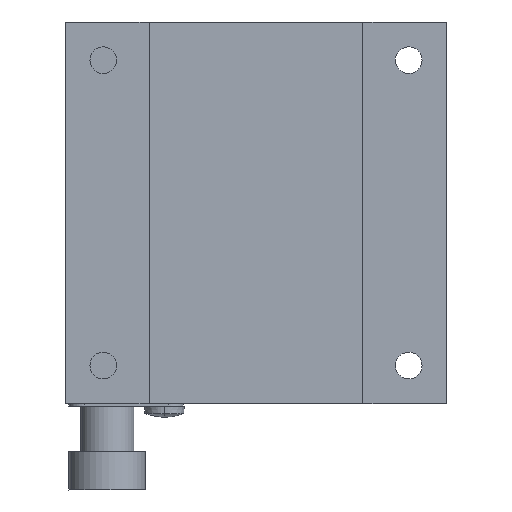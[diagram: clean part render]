
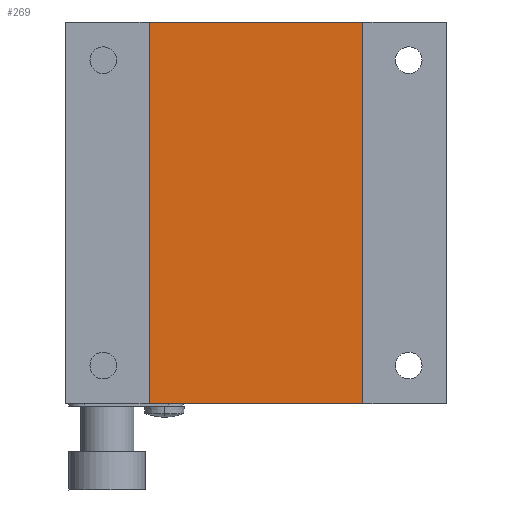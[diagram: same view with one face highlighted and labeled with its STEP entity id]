
A CAD part, front view. The second image highlights one B-rep face of the part: STEP entity #269.
In plain terms, the highlighted planar face has unit normal (0, -1, 0).
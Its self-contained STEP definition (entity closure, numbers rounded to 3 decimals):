
#235 = EDGE_CURVE ( 'NONE', #9412, #9556, #3648, .T. ) ;
#236 = ORIENTED_EDGE ( 'NONE', *, *, #9411, .F. ) ;
#237 = ORIENTED_EDGE ( 'NONE', *, *, #392, .T. ) ;
#269 = ADVANCED_FACE ( 'NONE', ( #3691 ), #3827, .F. ) ;
#270 = EDGE_LOOP ( 'NONE', ( #271, #272, #236, #237 ) ) ;
#271 = ORIENTED_EDGE ( 'NONE', *, *, #9558, .T. ) ;
#272 = ORIENTED_EDGE ( 'NONE', *, *, #235, .F. ) ;
#392 = EDGE_CURVE ( 'NONE', #9409, #9559, #3873, .T. ) ;
#3645 = DIRECTION ( 'NONE',  ( 0., 0., -1. ) ) ;
#3646 = VECTOR ( 'NONE', #3645, 1000. ) ;
#3647 = CARTESIAN_POINT ( 'NONE',  ( 14., 0.5, 25. ) ) ;
#3648 = LINE ( 'NONE', #3647, #3646 ) ;
#3691 = FACE_OUTER_BOUND ( 'NONE', #270, .T. ) ;
#3746 = DIRECTION ( 'NONE',  ( 0., 0., 1. ) ) ;
#3747 = DIRECTION ( 'NONE',  ( 0., 1., 0. ) ) ;
#3748 = CARTESIAN_POINT ( 'NONE',  ( -14., 0.5, 25. ) ) ;
#3789 = AXIS2_PLACEMENT_3D ( 'NONE', #3748, #3747, #3746 ) ;
#3827 = PLANE ( 'NONE',  #3789 ) ;
#3870 = DIRECTION ( 'NONE',  ( 0., 0., -1. ) ) ;
#3871 = VECTOR ( 'NONE', #3870, 1000. ) ;
#3872 = CARTESIAN_POINT ( 'NONE',  ( -14., 0.5, 25. ) ) ;
#3873 = LINE ( 'NONE', #3872, #3871 ) ;
#8196 = DIRECTION ( 'NONE',  ( 1., 0., 0. ) ) ;
#8197 = VECTOR ( 'NONE', #8196, 1000. ) ;
#8198 = CARTESIAN_POINT ( 'NONE',  ( -14., 0.5, 25. ) ) ;
#8247 = LINE ( 'NONE', #8198, #8197 ) ;
#8251 = CARTESIAN_POINT ( 'NONE',  ( -14., 0.5, 25. ) ) ;
#8256 = CARTESIAN_POINT ( 'NONE',  ( 14., 0.5, 25. ) ) ;
#8328 = CARTESIAN_POINT ( 'NONE',  ( -14., 0.5, -25. ) ) ;
#8329 = LINE ( 'NONE', #8328, #8345 ) ;
#8330 = CARTESIAN_POINT ( 'NONE',  ( 14., 0.5, -25. ) ) ;
#8343 = CARTESIAN_POINT ( 'NONE',  ( -14., 0.5, -25. ) ) ;
#8344 = DIRECTION ( 'NONE',  ( 1., 0., 0. ) ) ;
#8345 = VECTOR ( 'NONE', #8344, 1000. ) ;
#9409 = VERTEX_POINT ( 'NONE', #8251 ) ;
#9411 = EDGE_CURVE ( 'NONE', #9409, #9412, #8247, .T. ) ;
#9412 = VERTEX_POINT ( 'NONE', #8256 ) ;
#9556 = VERTEX_POINT ( 'NONE', #8330 ) ;
#9558 = EDGE_CURVE ( 'NONE', #9559, #9556, #8329, .T. ) ;
#9559 = VERTEX_POINT ( 'NONE', #8343 ) ;
